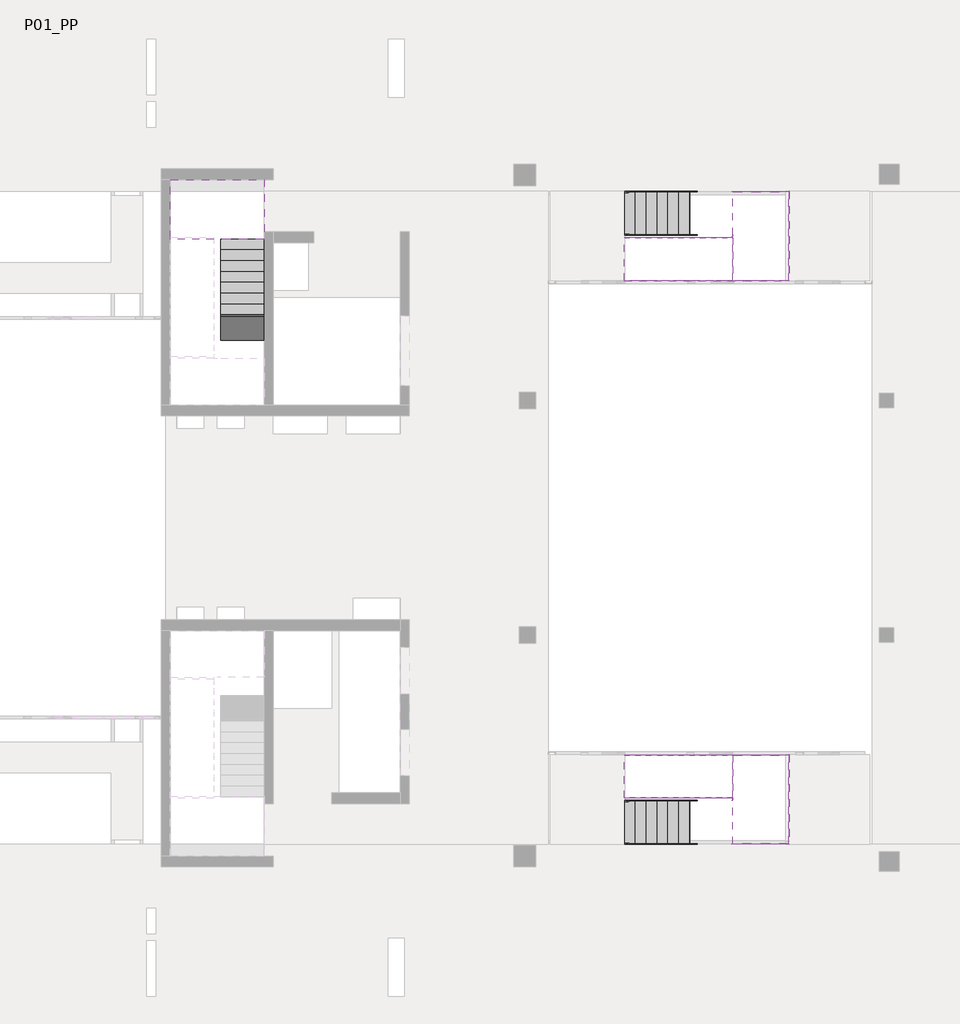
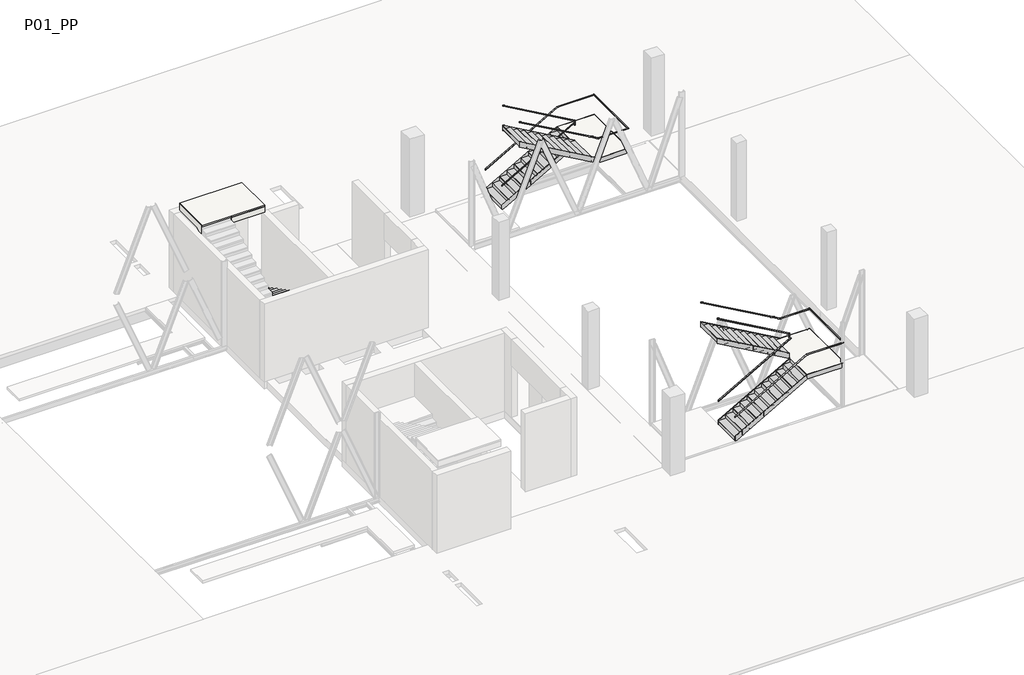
# One storey, part 8 of 8: 16 members, 5 stair flights, 4 railings, 3 slabs.
"""IFC4 building model written with IfcOpenShell, lengths in millimetres."""

from ifc_helpers import new_model, si_unit, frame, origin, place, context, project, spatial, polyline, outline, extrude, faceted_brep, transform, mapped, element, save
from components import railing_900mm_pipe_top_rail_28c3baa7, railing_900mm_pipe_top_rail_4cc62037, railing_900mm_pipe_top_rail_dc59ab8f, railing_900mm_pipe_top_rail_4b9b368b, slab_ab126f46, slab_6c9523ca, metal_steps_w_10mm_tread_10mm_nosing_9838f95c, metal_steps_w_10mm_tread_10mm_nosing_2b2c8ec8, metal_steps_w_10mm_tread_10mm_nosing_5f275db2, metal_steps_w_10mm_tread_10mm_nosing_2ec39de0

model = new_model("IFC4")

# Units and contexts
model_context = context("Model", 3, world=origin())
ifc_project = project(units=[si_unit("LENGTHUNIT", "METRE", prefix="MILLI")], contexts=[model_context])

# Site, building, storey
site = spatial("IfcSite", under=ifc_project)
building = spatial("IfcBuilding", under=site)
storey = spatial("IfcBuildingStorey", under=building, Name="P01_PP", Elevation=11160.0)

# Members
placement = place(None, origin())
element("IfcMember", 1, ObjectType="Stringer-Paint-10mm_Width-200mm_Height", at=placement, inside=storey, context=model_context, shape_type="SweptSolid", body=[
    extrude(outline(polyline([(11445.593333, -801.4958562), (11260.0, -801.4958562), (11260.0, -723.2895325), (12914.4282252, 2188.5041438), (13135.0, 2188.5041438), (13135.0, 2171.8598778), (11445.593333, -801.4958562)])), frame((0.0, -3354.3473686, 0.0), z_axis=(0.0, 1.0, 0.0), x_axis=(0.0, 0.0, 1.0)), (0.0, 0.0, 1.0), 10.0),
])
element("IfcMember", 2, ObjectType="Stringer-Paint-10mm_Width-200mm_Height", at=placement, inside=storey, context=model_context, shape_type="SweptSolid", body=[
    extrude(outline(polyline([(11445.593333, -801.4958562), (11260.0, -801.4958562), (11260.0, -723.2895325), (12935.0, 2224.7104675), (13135.0, 2171.8598778), (11445.593333, -801.4958562)])), frame((0.0, -4554.3473686, 0.0), z_axis=(0.0, 1.0, 0.0), x_axis=(0.0, 0.0, 1.0)), (0.0, 0.0, 1.0), 10.0),
])
element("IfcMember", 3, ObjectType="Stringer-Paint-10mm_Width-200mm_Height", at=placement, inside=storey, context=model_context, shape_type="SweptSolid", body=[
    extrude(outline(polyline([(13090.5645888, 2198.5041438), (13320.593333, 2198.5041438), (15025.1387875, -801.4958562), (14795.1100433, -801.4958562), (13090.5645888, 2198.5041438)])), frame((0.0, -3284.8316761, 0.0), z_axis=(0.0, 1.0, 0.0), x_axis=(0.0, 0.0, 1.0)), (0.0, 0.0, 1.0), 10.0),
])
element("IfcMember", 4, ObjectType="Stringer-Paint-10mm_Width-200mm_Height", at=placement, inside=storey, context=model_context, shape_type="SweptSolid", body=[
    extrude(outline(polyline([(12935.0, 2472.2978201), (13135.0, 2525.1484098), (15025.1387875, -801.4958562), (14795.1100433, -801.4958562), (12935.0, 2472.2978201)])), frame((0.0, -2084.8316761, 0.0), z_axis=(0.0, 1.0, 0.0), x_axis=(0.0, 0.0, 1.0)), (0.0, 0.0, 1.0), 10.0),
])
element("IfcMember", 5, ObjectType="Stringer-Paint-10mm_Width-200mm_Height", at=placement, inside=storey, context=model_context, shape_type="SweptSolid", body=[
    extrude(outline(polyline([(2188.5041438, -3284.8316761), (2198.5041438, -3284.8316761), (2198.5041438, -3354.3473686), (2188.5041438, -3354.3473686), (2188.5041438, -3284.8316761)])), frame((0.0, 0.0, 12935.0), z_axis=(0.0, 0.0, 1.0), x_axis=(1.0, 0.0, 0.0)), (0.0, 0.0, 1.0), 200.0),
])
element("IfcMember", 6, ObjectType="Stringer-Paint-10mm_Width-200mm_Height", at=placement, inside=storey, context=model_context, shape_type="Brep", body=[
    faceted_brep([(2171.8598778, -4544.3473686, 13135.0), (2171.8598778, -4554.3473686, 13135.0), (3758.5041438, -4554.3473686, 13135.0), (3748.5041438, -4544.3473686, 13135.0), (2224.7104675, -4544.3473686, 12935.0), (3748.5041438, -4544.3473686, 12935.0), (2224.7104675, -4554.3473686, 12935.0), (3758.5041438, -4554.3473686, 12935.0)], [[[0, 1, 2, 3]], [[4, 0, 3, 5]], [[6, 4, 5, 7]], [[1, 6, 7, 2]], [[1, 0, 4, 6]], [[2, 7, 5, 3]]]),
])
element("IfcMember", 7, ObjectType="Stringer-Paint-10mm_Width-200mm_Height", at=placement, inside=storey, context=model_context, shape_type="SweptSolid", body=[
    extrude(outline(polyline([(3758.5041438, -4554.3473686), (3748.5041438, -4544.3473686), (3748.5041438, -2084.8316761), (3758.5041438, -2074.8316761), (3758.5041438, -4554.3473686)])), frame((0.0, 0.0, 12935.0), z_axis=(0.0, 0.0, 1.0), x_axis=(1.0, 0.0, 0.0)), (0.0, 0.0, 1.0), 200.0),
])
element("IfcMember", 8, ObjectType="Stringer-Paint-10mm_Width-200mm_Height", at=placement, inside=storey, context=model_context, shape_type="Brep", body=[
    faceted_brep([(3748.5041438, -2084.8316761, 13135.0), (3758.5041438, -2074.8316761, 13135.0), (2525.1484098, -2074.8316761, 13135.0), (2525.1484098, -2084.8316761, 13135.0), (3748.5041438, -2084.8316761, 12935.0), (2472.2978201, -2084.8316761, 12935.0), (3758.5041438, -2074.8316761, 12935.0), (2472.2978201, -2074.8316761, 12935.0)], [[[0, 1, 2, 3]], [[4, 0, 3, 5]], [[6, 4, 5, 7]], [[1, 6, 7, 2]], [[1, 0, 4, 6]], [[2, 7, 5, 3]]]),
])
element("IfcMember", 9, ObjectType="Stringer-Paint-10mm_Width-200mm_Height", at=placement, inside=storey, context=model_context, shape_type="SweptSolid", body=[
    extrude(outline(polyline([(11445.593333, -801.4958562), (11260.0, -801.4958562), (11260.0, -723.2895325), (12914.4282252, 2188.5041438), (13135.0, 2188.5041438), (13135.0, 2171.8598778), (11445.593333, -801.4958562)])), frame((0.0, 12324.1395051, 0.0), z_axis=(0.0, 1.0, 0.0), x_axis=(0.0, 0.0, 1.0)), (0.0, 0.0, 1.0), 10.0),
])
element("IfcMember", 10, ObjectType="Stringer-Paint-10mm_Width-200mm_Height", at=placement, inside=storey, context=model_context, shape_type="SweptSolid", body=[
    extrude(outline(polyline([(11445.593333, -801.4958562), (11260.0, -801.4958562), (11260.0, -723.2895325), (12935.0, 2224.7104675), (13135.0, 2171.8598778), (11445.593333, -801.4958562)])), frame((0.0, 13524.1395051, 0.0), z_axis=(0.0, 1.0, 0.0), x_axis=(0.0, 0.0, 1.0)), (0.0, 0.0, 1.0), 10.0),
])
element("IfcMember", 11, ObjectType="Stringer-Paint-10mm_Width-200mm_Height", at=placement, inside=storey, context=model_context, shape_type="SweptSolid", body=[
    extrude(outline(polyline([(13090.5645888, 2198.5041438), (13320.593333, 2198.5041438), (15025.1387875, -801.4958562), (14795.1100433, -801.4958562), (13090.5645888, 2198.5041438)])), frame((0.0, 12254.6238126, 0.0), z_axis=(0.0, 1.0, 0.0), x_axis=(0.0, 0.0, 1.0)), (0.0, 0.0, 1.0), 10.0),
])
element("IfcMember", 12, ObjectType="Stringer-Paint-10mm_Width-200mm_Height", at=placement, inside=storey, context=model_context, shape_type="SweptSolid", body=[
    extrude(outline(polyline([(12935.0, 2472.2978201), (13135.0, 2525.1484098), (15025.1387875, -801.4958562), (14795.1100433, -801.4958562), (12935.0, 2472.2978201)])), frame((0.0, 11054.6238126, 0.0), z_axis=(0.0, 1.0, 0.0), x_axis=(0.0, 0.0, 1.0)), (0.0, 0.0, 1.0), 10.0),
])
element("IfcMember", 13, ObjectType="Stringer-Paint-10mm_Width-200mm_Height", at=placement, inside=storey, context=model_context, shape_type="SweptSolid", body=[
    extrude(outline(polyline([(2188.5041438, 12334.1395051), (2198.5041438, 12334.1395051), (2198.5041438, 12264.6238126), (2188.5041438, 12264.6238126), (2188.5041438, 12334.1395051)])), frame((0.0, 0.0, 12935.0), z_axis=(0.0, 0.0, 1.0), x_axis=(1.0, 0.0, 0.0)), (0.0, 0.0, 1.0), 200.0),
])
element("IfcMember", 14, ObjectType="Stringer-Paint-10mm_Width-200mm_Height", at=placement, inside=storey, context=model_context, shape_type="Brep", body=[
    faceted_brep([(3748.5041438, 13524.1395051, 13135.0), (3758.5041438, 13534.1395051, 13135.0), (2171.8598778, 13534.1395051, 13135.0), (2171.8598778, 13524.1395051, 13135.0), (3748.5041438, 13524.1395051, 12935.0), (2224.7104675, 13524.1395051, 12935.0), (3758.5041438, 13534.1395051, 12935.0), (2224.7104675, 13534.1395051, 12935.0)], [[[0, 1, 2, 3]], [[4, 0, 3, 5]], [[6, 4, 5, 7]], [[1, 6, 7, 2]], [[1, 0, 4, 6]], [[2, 7, 5, 3]]]),
])
element("IfcMember", 15, ObjectType="Stringer-Paint-10mm_Width-200mm_Height", at=placement, inside=storey, context=model_context, shape_type="SweptSolid", body=[
    extrude(outline(polyline([(3758.5041438, 11054.6238126), (3748.5041438, 11064.6238126), (3748.5041438, 13524.1395051), (3758.5041438, 13534.1395051), (3758.5041438, 11054.6238126)])), frame((0.0, 0.0, 12935.0), z_axis=(0.0, 0.0, 1.0), x_axis=(1.0, 0.0, 0.0)), (0.0, 0.0, 1.0), 200.0),
])
element("IfcMember", 16, ObjectType="Stringer-Paint-10mm_Width-200mm_Height", at=placement, inside=storey, context=model_context, shape_type="Brep", body=[
    faceted_brep([(2525.1484098, 11064.6238126, 13135.0), (2525.1484098, 11054.6238126, 13135.0), (3758.5041438, 11054.6238126, 13135.0), (3748.5041438, 11064.6238126, 13135.0), (2472.2978201, 11064.6238126, 12935.0), (3748.5041438, 11064.6238126, 12935.0), (2472.2978201, 11054.6238126, 12935.0), (3758.5041438, 11054.6238126, 12935.0)], [[[0, 1, 2, 3]], [[4, 0, 3, 5]], [[6, 4, 5, 7]], [[1, 6, 7, 2]], [[1, 0, 4, 6]], [[2, 7, 5, 3]]]),
])

# Railings
railing_900mm_pipe_top_rail_shape = railing_900mm_pipe_top_rail_28c3baa7(model_context)
element("IfcRailing", 17, ObjectType="900mm_Pipe_Top Rail", at=placement, inside=storey, context=model_context, shape_type="MappedRepresentation", body=[
    mapped(railing_900mm_pipe_top_rail_shape, transform((0.0, 0.0, 0.0), x_axis=(1.0, 0.0, 0.0), y_axis=(0.0, 1.0, 0.0), z_axis=(0.0, 0.0, 1.0))),
])
railing_900mm_pipe_top_rail_2_shape = railing_900mm_pipe_top_rail_4cc62037(model_context)
element("IfcRailing", 18, ObjectType="900mm_Pipe_Top Rail", at=placement, inside=storey, context=model_context, shape_type="MappedRepresentation", body=[
    mapped(railing_900mm_pipe_top_rail_2_shape, transform((0.0, 0.0, 0.0), x_axis=(1.0, 0.0, 0.0), y_axis=(0.0, 1.0, 0.0), z_axis=(0.0, 0.0, 1.0))),
])
railing_900mm_pipe_top_rail_3_shape = railing_900mm_pipe_top_rail_dc59ab8f(model_context)
element("IfcRailing", 19, ObjectType="900mm_Pipe_Top Rail", at=placement, inside=storey, context=model_context, shape_type="MappedRepresentation", body=[
    mapped(railing_900mm_pipe_top_rail_3_shape, transform((0.0, 0.0, 0.0), x_axis=(1.0, 0.0, 0.0), y_axis=(0.0, 1.0, 0.0), z_axis=(0.0, 0.0, 1.0))),
])
railing_900mm_pipe_top_rail_4_shape = railing_900mm_pipe_top_rail_4b9b368b(model_context)
element("IfcRailing", 20, ObjectType="900mm_Pipe_Top Rail", at=placement, inside=storey, context=model_context, shape_type="MappedRepresentation", body=[
    mapped(railing_900mm_pipe_top_rail_4_shape, transform((0.0, 0.0, 0.0), x_axis=(1.0, 0.0, 0.0), y_axis=(0.0, 1.0, 0.0), z_axis=(0.0, 0.0, 1.0))),
])

# Slabs
slab_shape = slab_ab126f46(model_context)
element("IfcSlab", 21, ObjectType="Non-Monolitic_Landing", at=placement, inside=storey, context=model_context, shape_type="MappedRepresentation", body=[
    mapped(slab_shape, transform((0.0, 0.0, 0.0), x_axis=(1.0, 0.0, 0.0), y_axis=(0.0, 1.0, 0.0), z_axis=(0.0, 0.0, 1.0))),
])
slab_2_shape = slab_6c9523ca(model_context)
element("IfcSlab", 22, ObjectType="Non-Monolitic_Landing", at=placement, inside=storey, context=model_context, shape_type="MappedRepresentation", body=[
    mapped(slab_2_shape, transform((0.0, 0.0, 0.0), x_axis=(1.0, 0.0, 0.0), y_axis=(0.0, 1.0, 0.0), z_axis=(0.0, 0.0, 1.0))),
])
element("IfcSlab", 23, ObjectType="250mm_Thickness", at=placement, inside=storey, context=model_context, shape_type="SolidModel", body=[
    faceted_brep([(-13390.3216429, 12264.8932827, 14960.0), (-12190.3216429, 12264.8932827, 14960.0), (-12190.3216429, 12214.8932827, 14960.0), (-10790.2146087, 12214.8932827, 14960.0), (-10790.2146087, 13864.8960677, 14960.0), (-13390.3216429, 13864.8960677, 14960.0), (-13390.3216429, 12626.0956478, 14960.0), (-13390.3216429, 12264.8932827, 14521.8737682), (-13390.3216429, 12264.8932827, 14803.75), (-13390.3216429, 13864.8960677, 14710.0), (-13390.3216429, 12626.0956478, 14710.0), (-10790.2146087, 12214.8932827, 14710.0), (-10790.2146087, 13864.8960677, 14710.0), (-12190.3216429, 12626.0956478, 14710.0), (-12190.3216429, 12214.8932827, 14710.0), (-12190.3216429, 12264.8932827, 14710.0), (-12190.3216429, 12264.8932827, 14521.8737682), (-12190.3216429, 12264.8932827, 14803.75)], [[[0, 1, 2, 3, 4, 5, 6]], [[7, 8, 0, 6, 5, 9, 10]], [[4, 3, 11, 12]], [[5, 4, 12, 9]], [[13, 10, 9, 12, 11, 14, 15]], [[1, 0, 8, 7, 16, 15, 17]], [[2, 1, 17, 15, 14]], [[3, 2, 14, 11]], [[10, 13, 16, 7]], [[13, 15, 16]]]),
    extrude(outline(polyline([(-13390.3216429, 12214.8932827), (-13390.3216429, 13864.8960677), (-10790.2146087, 13864.8960677), (-10790.2146087, 12214.8932827), (-12190.3216429, 12214.8932827), (-13390.3216429, 12214.8932827)])), frame((0.0, 0.0, 14960.0), z_axis=(0.0, 0.0, 1.0), x_axis=(1.0, 0.0, 0.0)), (0.0, 0.0, 1.0), 50.0),
])

# Stair flights
element("IfcStairFlight", 24, ObjectType="250mm Depth", at=placement, inside=storey, context=model_context, shape_type="SolidModel", body=[
    faceted_brep([(-10790.2146087, 11864.8932827, 11366.25), (-10790.2146087, 12164.8932827, 11366.25), (-11990.2146087, 12164.8932827, 11366.25), (-11990.2146087, 11864.8932827, 11366.25), (-10790.2146087, 11864.8932827, 11260.0), (-10790.2146087, 12164.8932827, 11260.0), (-11990.2146087, 12164.8932827, 11260.0), (-11990.2146087, 11864.8932827, 11260.0), (-10790.2146087, 11564.8932827, 11522.5), (-10790.2146087, 11864.8932827, 11522.5), (-11990.2146087, 11864.8932827, 11522.5), (-11990.2146087, 11564.8932827, 11522.5), (-10790.2146087, 11564.8932827, 11260.0), (-11990.2146087, 11564.8932827, 11260.0), (-10790.2146087, 11264.8932827, 11678.75), (-10790.2146087, 11564.8932827, 11678.75), (-11990.2146087, 11564.8932827, 11678.75), (-11990.2146087, 11264.8932827, 11678.75), (-10790.2146087, 11264.8932827, 11396.8737682), (-10790.2146087, 11527.6909176, 11260.0), (-11990.2146087, 11527.6909176, 11260.0), (-11990.2146087, 11264.8932827, 11396.8737682), (-10790.2146087, 10964.8932827, 11835.0), (-10790.2146087, 11264.8932827, 11835.0), (-11990.2146087, 11264.8932827, 11835.0), (-11990.2146087, 10964.8932827, 11835.0), (-10790.2146087, 10964.8932827, 11553.1237682), (-11990.2146087, 10964.8932827, 11553.1237682), (-10790.2146087, 10664.8932827, 11991.25), (-10790.2146087, 10964.8932827, 11991.25), (-11990.2146087, 10964.8932827, 11991.25), (-11990.2146087, 10664.8932827, 11991.25), (-10790.2146087, 10664.8932827, 11709.3737682), (-11990.2146087, 10664.8932827, 11709.3737682), (-10790.2146087, 10364.8932827, 12147.5), (-10790.2146087, 10664.8932827, 12147.5), (-11990.2146087, 10664.8932827, 12147.5), (-11990.2146087, 10364.8932827, 12147.5), (-10790.2146087, 10364.8932827, 11865.6237682), (-11990.2146087, 10364.8932827, 11865.6237682), (-10790.2146087, 10064.8932827, 12303.75), (-10790.2146087, 10364.8932827, 12303.75), (-11990.2146087, 10364.8932827, 12303.75), (-11990.2146087, 10064.8932827, 12303.75), (-10790.2146087, 10064.8932827, 12021.8737682), (-11990.2146087, 10064.8932827, 12021.8737682), (-10790.2146087, 9764.8932827, 12460.0), (-10790.2146087, 10064.8932827, 12460.0), (-11990.2146087, 10064.8932827, 12460.0), (-11990.2146087, 9764.8932827, 12460.0), (-10790.2146087, 9764.8932827, 12178.1237682), (-11990.2146087, 9764.8932827, 12178.1237682), (-10790.2146087, 9464.8932827, 12616.25), (-10790.2146087, 9764.8932827, 12616.25), (-11990.2146087, 9764.8932827, 12616.25), (-11990.2146087, 9464.8932827, 12616.25), (-10790.2146087, 9464.8932827, 12334.3737682), (-11990.2146087, 9464.8932827, 12334.3737682), (-10790.2146087, 9164.8932827, 12772.5), (-10790.2146087, 9464.8932827, 12772.5), (-11990.2146087, 9464.8932827, 12772.5), (-11990.2146087, 9164.8932827, 12772.5), (-10790.2146087, 9164.8932827, 12490.6237682), (-11990.2146087, 9164.8932827, 12490.6237682), (-10790.2146087, 9164.8932827, 12928.75), (-11990.2146087, 9164.8932827, 12928.75), (-11990.2146087, 8914.8932827, 12928.75), (-11990.2146087, 8864.8932827, 12928.75), (-10790.2146087, 8864.8932827, 12928.75), (-10790.2146087, 8914.8932827, 12928.75), (-10790.2146087, 8864.8932827, 12646.8737682), (-10790.2146087, 8914.8932827, 12620.8321015), (-11990.2146087, 8864.8932827, 12646.8737682), (-11990.2146087, 8864.8932827, 12835.0)], [[[0, 1, 2, 3]], [[1, 0, 4, 5]], [[2, 1, 5, 6]], [[3, 2, 6, 7]], [[8, 9, 10, 11]], [[4, 0, 9, 8, 12]], [[0, 3, 10, 9]], [[3, 7, 13, 11, 10]], [[14, 15, 16, 17]], [[12, 8, 15, 14, 18, 19]], [[8, 11, 16, 15]], [[11, 13, 20, 21, 17, 16]], [[22, 23, 24, 25]], [[23, 22, 26, 18, 14]], [[14, 17, 24, 23]], [[25, 24, 17, 21, 27]], [[28, 29, 30, 31]], [[29, 28, 32, 26, 22]], [[22, 25, 30, 29]], [[31, 30, 25, 27, 33]], [[34, 35, 36, 37]], [[35, 34, 38, 32, 28]], [[28, 31, 36, 35]], [[37, 36, 31, 33, 39]], [[40, 41, 42, 43]], [[41, 40, 44, 38, 34]], [[34, 37, 42, 41]], [[43, 42, 37, 39, 45]], [[46, 47, 48, 49]], [[47, 46, 50, 44, 40]], [[40, 43, 48, 47]], [[49, 48, 43, 45, 51]], [[52, 53, 54, 55]], [[53, 52, 56, 50, 46]], [[46, 49, 54, 53]], [[55, 54, 49, 51, 57]], [[58, 59, 60, 61]], [[59, 58, 62, 56, 52]], [[52, 55, 60, 59]], [[61, 60, 55, 57, 63]], [[64, 65, 66, 67, 68, 69]], [[58, 64, 69, 68, 70, 71, 62]], [[58, 61, 65, 64]], [[65, 61, 63, 72, 73, 67, 66]], [[68, 67, 73, 72, 70]], [[5, 4, 12, 19, 20, 13, 7, 6]], [[20, 19, 18, 26, 32, 38, 44, 50, 56, 62, 71, 70, 72, 63, 57, 51, 45, 39, 33, 27, 21]]]),
    extrude(outline(polyline([(-11990.2146087, 12164.8932827), (-11990.2146087, 12214.8932827), (-10790.2146087, 12214.8932827), (-10790.2146087, 12164.8932827), (-11990.2146087, 12164.8932827)])), frame((0.0, 0.0, 11260.0), z_axis=(0.0, 0.0, 1.0), x_axis=(1.0, 0.0, 0.0)), (0.0, 0.0, 1.0), 106.25),
    extrude(outline(polyline([(-10790.2146087, 11914.8932827), (-11990.2146087, 11914.8932827), (-11990.2146087, 12214.8932827), (-10790.2146087, 12214.8932827), (-10790.2146087, 11914.8932827)])), frame((0.0, 0.0, 11366.25), z_axis=(0.0, 0.0, 1.0), x_axis=(1.0, 0.0, 0.0)), (0.0, 0.0, 1.0), 50.0),
    extrude(outline(polyline([(-11990.2146087, 11864.8932827), (-11990.2146087, 11914.8932827), (-10790.2146087, 11914.8932827), (-10790.2146087, 11864.8932827), (-11990.2146087, 11864.8932827)])), frame((0.0, 0.0, 11366.25), z_axis=(0.0, 0.0, 1.0), x_axis=(1.0, 0.0, 0.0)), (0.0, 0.0, 1.0), 156.25),
    extrude(outline(polyline([(-10790.2146087, 11614.8932827), (-11990.2146087, 11614.8932827), (-11990.2146087, 11914.8932827), (-10790.2146087, 11914.8932827), (-10790.2146087, 11614.8932827)])), frame((0.0, 0.0, 11522.5), z_axis=(0.0, 0.0, 1.0), x_axis=(1.0, 0.0, 0.0)), (0.0, 0.0, 1.0), 50.0),
    extrude(outline(polyline([(-11990.2146087, 11564.8932827), (-11990.2146087, 11614.8932827), (-10790.2146087, 11614.8932827), (-10790.2146087, 11564.8932827), (-11990.2146087, 11564.8932827)])), frame((0.0, 0.0, 11522.5), z_axis=(0.0, 0.0, 1.0), x_axis=(1.0, 0.0, 0.0)), (0.0, 0.0, 1.0), 156.25),
    extrude(outline(polyline([(-10790.2146087, 11314.8932827), (-11990.2146087, 11314.8932827), (-11990.2146087, 11614.8932827), (-10790.2146087, 11614.8932827), (-10790.2146087, 11314.8932827)])), frame((0.0, 0.0, 11678.75), z_axis=(0.0, 0.0, 1.0), x_axis=(1.0, 0.0, 0.0)), (0.0, 0.0, 1.0), 50.0),
    extrude(outline(polyline([(-11990.2146087, 11264.8932827), (-11990.2146087, 11314.8932827), (-10790.2146087, 11314.8932827), (-10790.2146087, 11264.8932827), (-11990.2146087, 11264.8932827)])), frame((0.0, 0.0, 11678.75), z_axis=(0.0, 0.0, 1.0), x_axis=(1.0, 0.0, 0.0)), (0.0, 0.0, 1.0), 156.25),
    extrude(outline(polyline([(-10790.2146087, 11014.8932827), (-11990.2146087, 11014.8932827), (-11990.2146087, 11314.8932827), (-10790.2146087, 11314.8932827), (-10790.2146087, 11014.8932827)])), frame((0.0, 0.0, 11835.0), z_axis=(0.0, 0.0, 1.0), x_axis=(1.0, 0.0, 0.0)), (0.0, 0.0, 1.0), 50.0),
    extrude(outline(polyline([(-11990.2146087, 10964.8932827), (-11990.2146087, 11014.8932827), (-10790.2146087, 11014.8932827), (-10790.2146087, 10964.8932827), (-11990.2146087, 10964.8932827)])), frame((0.0, 0.0, 11835.0), z_axis=(0.0, 0.0, 1.0), x_axis=(1.0, 0.0, 0.0)), (0.0, 0.0, 1.0), 156.25),
    extrude(outline(polyline([(-10790.2146087, 10714.8932827), (-11990.2146087, 10714.8932827), (-11990.2146087, 11014.8932827), (-10790.2146087, 11014.8932827), (-10790.2146087, 10714.8932827)])), frame((0.0, 0.0, 11991.25), z_axis=(0.0, 0.0, 1.0), x_axis=(1.0, 0.0, 0.0)), (0.0, 0.0, 1.0), 50.0),
    extrude(outline(polyline([(-11990.2146087, 10664.8932827), (-11990.2146087, 10714.8932827), (-10790.2146087, 10714.8932827), (-10790.2146087, 10664.8932827), (-11990.2146087, 10664.8932827)])), frame((0.0, 0.0, 11991.25), z_axis=(0.0, 0.0, 1.0), x_axis=(1.0, 0.0, 0.0)), (0.0, 0.0, 1.0), 156.25),
    extrude(outline(polyline([(-10790.2146087, 10414.8932827), (-11990.2146087, 10414.8932827), (-11990.2146087, 10714.8932827), (-10790.2146087, 10714.8932827), (-10790.2146087, 10414.8932827)])), frame((0.0, 0.0, 12147.5), z_axis=(0.0, 0.0, 1.0), x_axis=(1.0, 0.0, 0.0)), (0.0, 0.0, 1.0), 50.0),
    extrude(outline(polyline([(-11990.2146087, 10364.8932827), (-11990.2146087, 10414.8932827), (-10790.2146087, 10414.8932827), (-10790.2146087, 10364.8932827), (-11990.2146087, 10364.8932827)])), frame((0.0, 0.0, 12147.5), z_axis=(0.0, 0.0, 1.0), x_axis=(1.0, 0.0, 0.0)), (0.0, 0.0, 1.0), 156.25),
    extrude(outline(polyline([(-10790.2146087, 10114.8932827), (-11990.2146087, 10114.8932827), (-11990.2146087, 10414.8932827), (-10790.2146087, 10414.8932827), (-10790.2146087, 10114.8932827)])), frame((0.0, 0.0, 12303.75), z_axis=(0.0, 0.0, 1.0), x_axis=(1.0, 0.0, 0.0)), (0.0, 0.0, 1.0), 50.0),
    extrude(outline(polyline([(-11990.2146087, 10064.8932827), (-11990.2146087, 10114.8932827), (-10790.2146087, 10114.8932827), (-10790.2146087, 10064.8932827), (-11990.2146087, 10064.8932827)])), frame((0.0, 0.0, 12303.75), z_axis=(0.0, 0.0, 1.0), x_axis=(1.0, 0.0, 0.0)), (0.0, 0.0, 1.0), 156.25),
    extrude(outline(polyline([(-10790.2146087, 9814.8932827), (-11990.2146087, 9814.8932827), (-11990.2146087, 10114.8932827), (-10790.2146087, 10114.8932827), (-10790.2146087, 9814.8932827)])), frame((0.0, 0.0, 12460.0), z_axis=(0.0, 0.0, 1.0), x_axis=(1.0, 0.0, 0.0)), (0.0, 0.0, 1.0), 50.0),
    extrude(outline(polyline([(-11990.2146087, 9764.8932827), (-11990.2146087, 9814.8932827), (-10790.2146087, 9814.8932827), (-10790.2146087, 9764.8932827), (-11990.2146087, 9764.8932827)])), frame((0.0, 0.0, 12460.0), z_axis=(0.0, 0.0, 1.0), x_axis=(1.0, 0.0, 0.0)), (0.0, 0.0, 1.0), 156.25),
    extrude(outline(polyline([(-10790.2146087, 9514.8932827), (-11990.2146087, 9514.8932827), (-11990.2146087, 9814.8932827), (-10790.2146087, 9814.8932827), (-10790.2146087, 9514.8932827)])), frame((0.0, 0.0, 12616.25), z_axis=(0.0, 0.0, 1.0), x_axis=(1.0, 0.0, 0.0)), (0.0, 0.0, 1.0), 50.0),
    extrude(outline(polyline([(-11990.2146087, 9464.8932827), (-11990.2146087, 9514.8932827), (-10790.2146087, 9514.8932827), (-10790.2146087, 9464.8932827), (-11990.2146087, 9464.8932827)])), frame((0.0, 0.0, 12616.25), z_axis=(0.0, 0.0, 1.0), x_axis=(1.0, 0.0, 0.0)), (0.0, 0.0, 1.0), 156.25),
    extrude(outline(polyline([(-10790.2146087, 9214.8932827), (-11990.2146087, 9214.8932827), (-11990.2146087, 9514.8932827), (-10790.2146087, 9514.8932827), (-10790.2146087, 9214.8932827)])), frame((0.0, 0.0, 12772.5), z_axis=(0.0, 0.0, 1.0), x_axis=(1.0, 0.0, 0.0)), (0.0, 0.0, 1.0), 50.0),
    extrude(outline(polyline([(-11990.2146087, 9164.8932827), (-11990.2146087, 9214.8932827), (-10790.2146087, 9214.8932827), (-10790.2146087, 9164.8932827), (-11990.2146087, 9164.8932827)])), frame((0.0, 0.0, 12772.5), z_axis=(0.0, 0.0, 1.0), x_axis=(1.0, 0.0, 0.0)), (0.0, 0.0, 1.0), 156.25),
    extrude(outline(polyline([(-11990.2146087, 8864.8932827), (-11990.2146087, 8914.8932827), (-10790.2146087, 8914.8932827), (-10790.2146087, 8864.8932827), (-11990.2146087, 8864.8932827)])), frame((0.0, 0.0, 12928.75), z_axis=(0.0, 0.0, 1.0), x_axis=(1.0, 0.0, 0.0)), (0.0, 0.0, 1.0), 156.25),
    extrude(outline(polyline([(-10790.2146087, 8914.8932827), (-11990.2146087, 8914.8932827), (-11990.2146087, 9214.8932827), (-10790.2146087, 9214.8932827), (-10790.2146087, 8914.8932827)])), frame((0.0, 0.0, 12928.75), z_axis=(0.0, 0.0, 1.0), x_axis=(1.0, 0.0, 0.0)), (0.0, 0.0, 1.0), 50.0),
])
metal_steps_w_10mm_tread_10mm_nosing_shape = metal_steps_w_10mm_tread_10mm_nosing_9838f95c(model_context)
element("IfcStairFlight", 25, ObjectType="Metal_Steps_w-10mm_Tread-10mm_Nosing", at=placement, inside=storey, context=model_context, shape_type="MappedRepresentation", body=[
    mapped(metal_steps_w_10mm_tread_10mm_nosing_shape, transform((0.0, 0.0, 0.0), x_axis=(1.0, 0.0, 0.0), y_axis=(0.0, 1.0, 0.0), z_axis=(0.0, 0.0, 1.0))),
])
metal_steps_w_10mm_tread_10mm_nosing_2_shape = metal_steps_w_10mm_tread_10mm_nosing_2b2c8ec8(model_context)
element("IfcStairFlight", 26, ObjectType="Metal_Steps_w-10mm_Tread-10mm_Nosing", at=placement, inside=storey, context=model_context, shape_type="MappedRepresentation", body=[
    mapped(metal_steps_w_10mm_tread_10mm_nosing_2_shape, transform((0.0, 0.0, 0.0), x_axis=(1.0, 0.0, 0.0), y_axis=(0.0, 1.0, 0.0), z_axis=(0.0, 0.0, 1.0))),
])
metal_steps_w_10mm_tread_10mm_nosing_3_shape = metal_steps_w_10mm_tread_10mm_nosing_5f275db2(model_context)
element("IfcStairFlight", 27, ObjectType="Metal_Steps_w-10mm_Tread-10mm_Nosing", at=placement, inside=storey, context=model_context, shape_type="MappedRepresentation", body=[
    mapped(metal_steps_w_10mm_tread_10mm_nosing_3_shape, transform((0.0, 0.0, 0.0), x_axis=(1.0, 0.0, 0.0), y_axis=(0.0, 1.0, 0.0), z_axis=(0.0, 0.0, 1.0))),
])
metal_steps_w_10mm_tread_10mm_nosing_4_shape = metal_steps_w_10mm_tread_10mm_nosing_2ec39de0(model_context)
element("IfcStairFlight", 28, ObjectType="Metal_Steps_w-10mm_Tread-10mm_Nosing", at=placement, inside=storey, context=model_context, shape_type="MappedRepresentation", body=[
    mapped(metal_steps_w_10mm_tread_10mm_nosing_4_shape, transform((0.0, 0.0, 0.0), x_axis=(1.0, 0.0, 0.0), y_axis=(0.0, 1.0, 0.0), z_axis=(0.0, 0.0, 1.0))),
])

save(model, "model.ifc")
